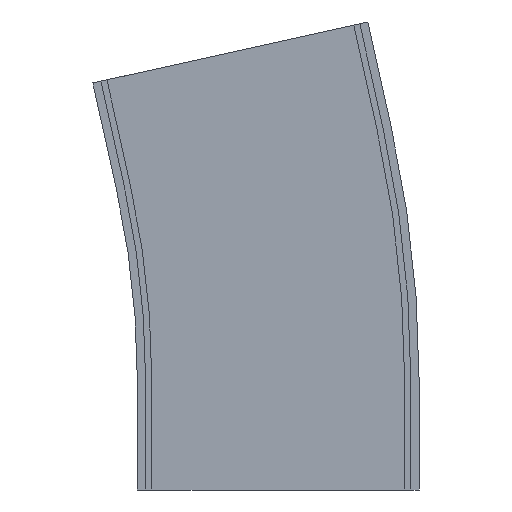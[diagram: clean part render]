
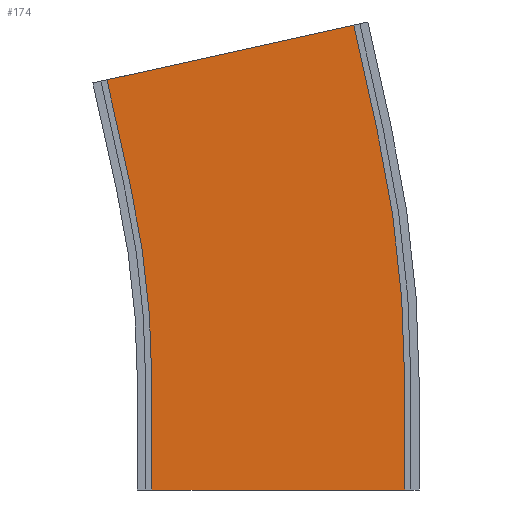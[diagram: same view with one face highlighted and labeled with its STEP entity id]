
A CAD part, left-side view. The second image highlights one B-rep face of the part: STEP entity #174.
In plain terms, the highlighted planar face has unit normal (-1, 0, 0).
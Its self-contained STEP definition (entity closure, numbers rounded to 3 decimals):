
#7 = ORIENTED_EDGE ( 'NONE', *, *, #431, .F. ) ;
#36 = CARTESIAN_POINT ( 'NONE',  ( -325.25, 500., 52.5 ) ) ;
#57 = CARTESIAN_POINT ( 'NONE',  ( -325.25, 61.25, 52.5 ) ) ;
#64 = EDGE_CURVE ( 'NONE', #708, #141, #1133, .T. ) ;
#84 = CARTESIAN_POINT ( 'NONE',  ( -325.25, 500., 52.5 ) ) ;
#92 = EDGE_CURVE ( 'NONE', #141, #1204, #189, .T. ) ;
#112 = ORIENTED_EDGE ( 'NONE', *, *, #209, .F. ) ;
#141 = VERTEX_POINT ( 'NONE', #325 ) ;
#160 = CARTESIAN_POINT ( 'NONE',  ( -325.25, 61.25, 0. ) ) ;
#174 = ADVANCED_FACE ( 'NONE', ( #716 ), #1402, .F. ) ;
#189 = LINE ( 'NONE', #190, #1310 ) ;
#190 = CARTESIAN_POINT ( 'NONE',  ( -325.25, -47.946, 173.977 ) ) ;
#194 = DIRECTION ( 'NONE',  ( -1., 0., 0. ) ) ;
#209 = EDGE_CURVE ( 'NONE', #1142, #451, #495, .T. ) ;
#237 = VECTOR ( 'NONE', #682, 1000. ) ;
#307 = LINE ( 'NONE', #855, #735 ) ;
#325 = CARTESIAN_POINT ( 'NONE',  ( -325.25, -47.946, 173.977 ) ) ;
#357 = DIRECTION ( 'NONE',  ( 0., 0., 1. ) ) ;
#411 = DIRECTION ( 'NONE',  ( 0., 0.216, 0.976 ) ) ;
#415 = LINE ( 'NONE', #1386, #530 ) ;
#423 = EDGE_CURVE ( 'NONE', #1142, #1088, #640, .T. ) ;
#431 = EDGE_CURVE ( 'NONE', #708, #628, #415, .T. ) ;
#449 = CARTESIAN_POINT ( 'NONE',  ( -325.25, 71.65, 147.463 ) ) ;
#451 = VERTEX_POINT ( 'NONE', #449 ) ;
#476 = EDGE_CURVE ( 'NONE', #451, #1396, #813, .T. ) ;
#479 = CARTESIAN_POINT ( 'NONE',  ( -325.25, -61.25, 0. ) ) ;
#495 = CIRCLE ( 'NONE', #896, 438.75 ) ;
#506 = ORIENTED_EDGE ( 'NONE', *, *, #988, .F. ) ;
#522 = CARTESIAN_POINT ( 'NONE',  ( -325.25, -61.25, 52.5 ) ) ;
#525 = DIRECTION ( 'NONE',  ( 0., 0., -1. ) ) ;
#530 = VECTOR ( 'NONE', #749, 1000. ) ;
#613 = ORIENTED_EDGE ( 'NONE', *, *, #476, .F. ) ;
#628 = VERTEX_POINT ( 'NONE', #701 ) ;
#640 = LINE ( 'NONE', #1278, #890 ) ;
#648 = ORIENTED_EDGE ( 'NONE', *, *, #92, .T. ) ;
#674 = EDGE_LOOP ( 'NONE', ( #744, #7, #842, #648, #506, #613, #112, #1121 ) ) ;
#682 = DIRECTION ( 'NONE',  ( 0., 0.216, 0.976 ) ) ;
#701 = CARTESIAN_POINT ( 'NONE',  ( -325.25, -61.25, 0. ) ) ;
#708 = VERTEX_POINT ( 'NONE', #1042 ) ;
#716 = FACE_OUTER_BOUND ( 'NONE', #674, .T. ) ;
#735 = VECTOR ( 'NONE', #833, 1000. ) ;
#744 = ORIENTED_EDGE ( 'NONE', *, *, #1136, .T. ) ;
#749 = DIRECTION ( 'NONE',  ( 0., 0., -1. ) ) ;
#773 = CARTESIAN_POINT ( 'NONE',  ( -325.25, 83.013, 198.718 ) ) ;
#780 = AXIS2_PLACEMENT_3D ( 'NONE', #36, #982, #357 ) ;
#813 = LINE ( 'NONE', #1342, #237 ) ;
#832 = LINE ( 'NONE', #479, #1374 ) ;
#833 = DIRECTION ( 'NONE',  ( 0., -0.976, 0.216 ) ) ;
#842 = ORIENTED_EDGE ( 'NONE', *, *, #64, .T. ) ;
#855 = CARTESIAN_POINT ( 'NONE',  ( -325.25, -36.583, 225.232 ) ) ;
#864 = DIRECTION ( 'NONE',  ( 1., 0., 0. ) ) ;
#890 = VECTOR ( 'NONE', #525, 1000. ) ;
#896 = AXIS2_PLACEMENT_3D ( 'NONE', #84, #194, #953 ) ;
#912 = DIRECTION ( 'NONE',  ( 0., -1., 0. ) ) ;
#953 = DIRECTION ( 'NONE',  ( 0., 0., 1. ) ) ;
#982 = DIRECTION ( 'NONE',  ( -1., 0., 0. ) ) ;
#988 = EDGE_CURVE ( 'NONE', #1396, #1204, #307, .T. ) ;
#1042 = CARTESIAN_POINT ( 'NONE',  ( -325.25, -61.25, 52.5 ) ) ;
#1051 = AXIS2_PLACEMENT_3D ( 'NONE', #522, #864, #1169 ) ;
#1087 = CARTESIAN_POINT ( 'NONE',  ( -325.25, -36.583, 225.232 ) ) ;
#1088 = VERTEX_POINT ( 'NONE', #160 ) ;
#1121 = ORIENTED_EDGE ( 'NONE', *, *, #423, .T. ) ;
#1133 = CIRCLE ( 'NONE', #780, 561.25 ) ;
#1136 = EDGE_CURVE ( 'NONE', #1088, #628, #832, .T. ) ;
#1142 = VERTEX_POINT ( 'NONE', #57 ) ;
#1169 = DIRECTION ( 'NONE',  ( 0., 0., -1. ) ) ;
#1204 = VERTEX_POINT ( 'NONE', #1087 ) ;
#1278 = CARTESIAN_POINT ( 'NONE',  ( -325.25, 61.25, 52.5 ) ) ;
#1310 = VECTOR ( 'NONE', #411, 1000. ) ;
#1342 = CARTESIAN_POINT ( 'NONE',  ( -325.25, 71.65, 147.463 ) ) ;
#1374 = VECTOR ( 'NONE', #912, 1000. ) ;
#1386 = CARTESIAN_POINT ( 'NONE',  ( -325.25, -61.25, 52.5 ) ) ;
#1396 = VERTEX_POINT ( 'NONE', #773 ) ;
#1402 = PLANE ( 'NONE',  #1051 ) ;
